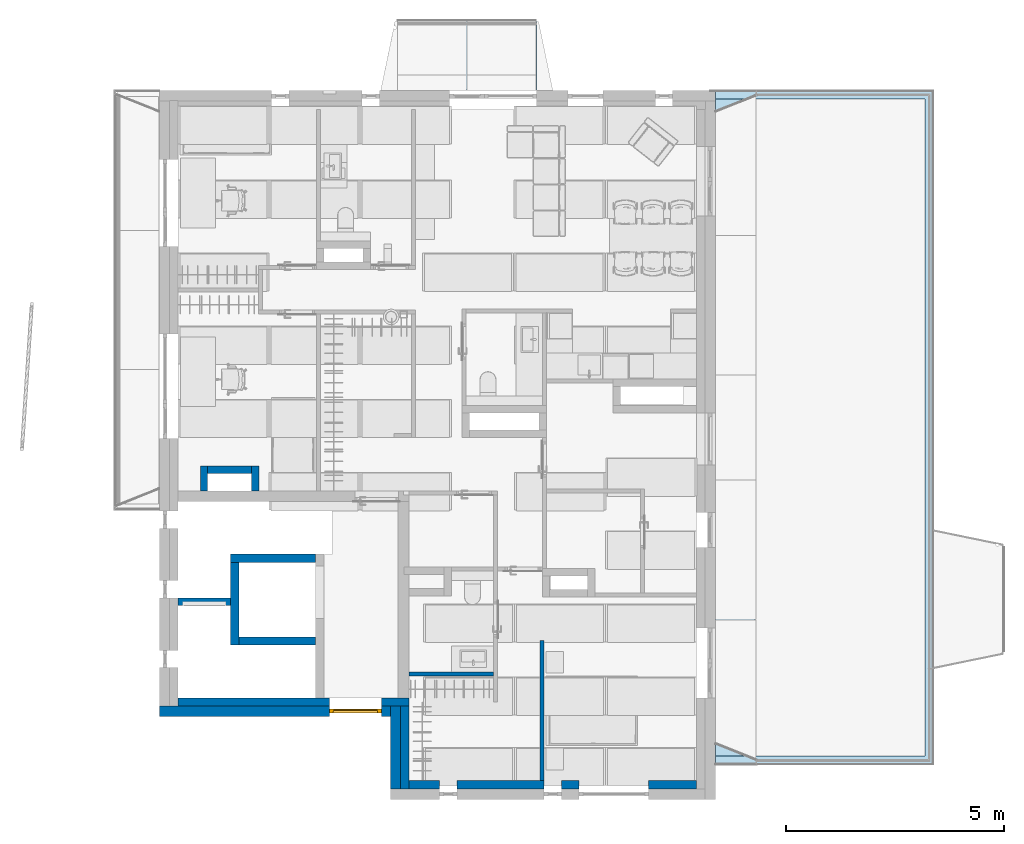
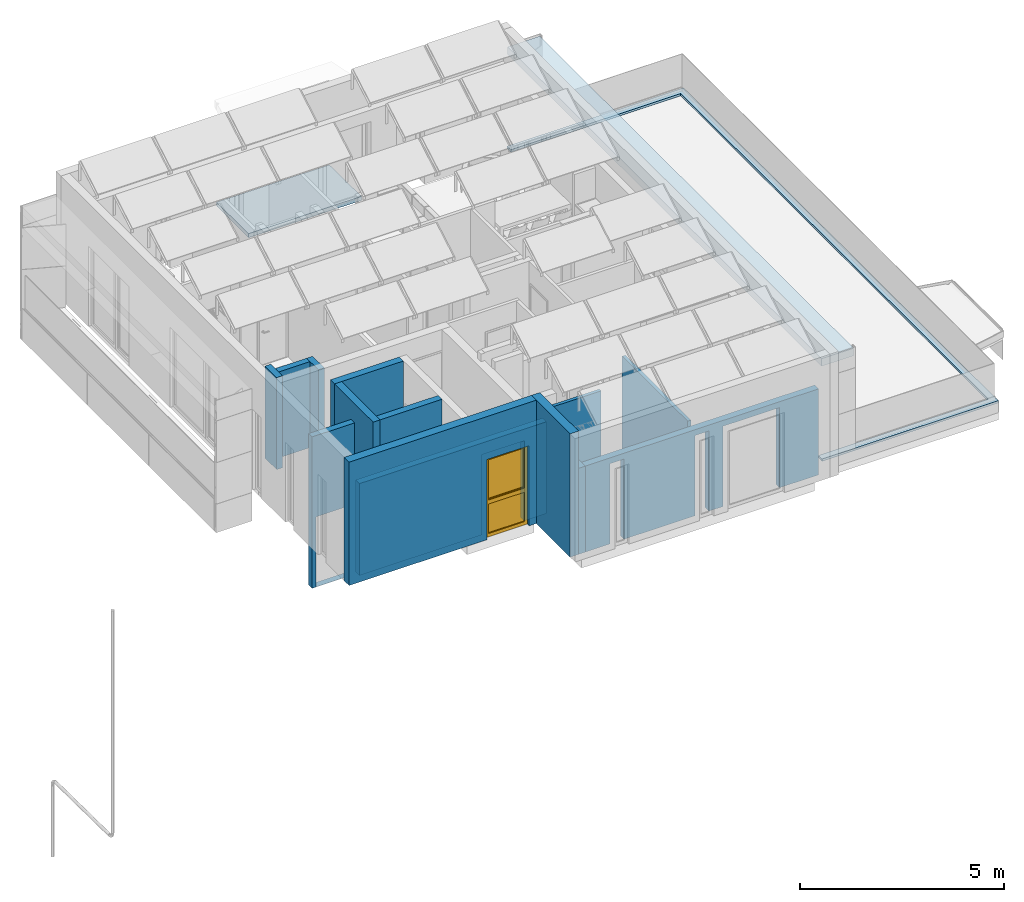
# One storey, part 2 of 57: 14 walls, 3 slabs, 1 window, 6 openings, 2 elements without a shape of their own.
"""IFC2X3 building model written with IfcOpenShell, lengths in millimetres."""

from ifc_helpers import new_model, entity, si_unit, converted_unit, direction, frame, frame_2d, origin, place, context, subcontext, project, spatial, polyline, rectangle, outline, extrude, faceted_brep, source, transform, mapped, material, material_list, layer, layer_set, layer_usage, type_object, type_shapes, element, fill, aggregate, save


model = new_model("IFC2X3")

# Units and contexts
model_context = context("Model", 3, precision=0.01, world=origin(), true_north=direction((6.123233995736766e-17, 1.0)))
plan_context = context("Plan", 3, precision=0.01, world=origin(), true_north=direction((6.123233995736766e-17, 1.0)))
body_context = subcontext(model_context, "Body", "Model", "MODEL_VIEW")
ifc_project = project(units=[si_unit("LENGTHUNIT", "METRE", prefix="MILLI"), converted_unit("PLANEANGLEUNIT", "DEGREE", entity("IfcPlaneAngleMeasure", 0.017453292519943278), si_unit("PLANEANGLEUNIT", "RADIAN"), dimensions=[0, 0, 0, 0, 0, 0, 0]), si_unit("AREAUNIT", "SQUARE_METRE")], contexts=[model_context, plan_context])

# Site, building, storey
site_placement = place(None, origin())
site = spatial("IfcSite", under=ifc_project, at=site_placement, Name="Default", CompositionType="ELEMENT")
building_placement = place(site_placement, origin())
building = spatial("IfcBuilding", under=site, at=building_placement, CompositionType="ELEMENT")
storey_placement = place(building_placement, frame((0.0, 0.0, 12811.000000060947)))
storey = spatial("IfcBuildingStorey", under=building, at=storey_placement, Name="5K", CompositionType="ELEMENT", Elevation=12811.000000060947)

# Roof, slab
ifc_material_1 = material(Name="_K. Katusekate. Rullmaterjal. PVC(1)")
ifc_layer_1 = layer(ifc_material_1, 2.5)
ifc_material_2 = material(Name="_K. Betoon. Armeeritud. Kohtvalu")
ifc_layer_2 = layer(ifc_material_2, 65.0)
ifc_layer_set_1 = layer_set([ifc_layer_1, ifc_layer_2], Name="Basic Roof:KL-02 2")
roof_1_placement = place(storey_placement, frame((12330.0, 380.0, -90.99985510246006)))
roof_1 = element("IfcRoof", 1, at=roof_1_placement, inside=storey, material=ifc_layer_set_1, Name="Basic Roof:KL-02 2", ObjectType="Basic Roof:KL-02 2", ShapeType="NOTDEFINED")
type_product_1 = type_object("IfcTypeProduct", Name="Basic Roof:KL-02 2")
slab_1_placement = place(roof_1_placement, origin())
slab_1 = element("IfcSlab", 2, at=slab_1_placement, type_object=type_product_1, material=ifc_layer_set_1, Name="Basic Roof:KL-02 2", ObjectType="Basic Roof:KL-02 2", PredefinedType="ROOF", context=body_context, shape_type="SweptSolid", body=[
    extrude(outline(polyline([(-2495.0, 7720.0), (-2495.0, 7540.0), (2315.0, 7540.0), (2315.0, -7540.0), (-2495.0, -7540.0), (-2495.0, -7720.0), (2495.0, -7720.0), (2495.0, 7720.0), (-2495.0, 7720.0)])), frame((2495.0, 7720.0, 0.0)), (0.0, 0.0, 1.0), 67.49999999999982),
])
aggregate(roof_1, [slab_1])

# Slab
ifc_material_3 = material(Name="_K. Betoon. Armeeritud. Monteeritav")
slab_type = type_object("IfcSlabType", Name="HR_Slab_Balcony_v3:Default", PredefinedType="FLOOR", material=ifc_material_3)
slab_2_placement = place(storey_placement, frame((0.0, 0.0, -225.50023803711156)))
element("IfcSlab", 3, at=slab_2_placement, inside=storey, type_object=slab_type, Name="HR_Slab_Balcony_v3:Default", ObjectType="HR_Slab_Balcony_v3:Default", PredefinedType="FLOOR", context=body_context, shape_type="SweptSolid", body=[
    extrude(outline(polyline([(-636.2215697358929, 62.610965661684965), (-637.2171002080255, -42.38431479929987), (-604.7185610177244, -42.69245518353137), (-594.6241980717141, -32.787717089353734), (-579.6248722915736, -32.92993572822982), (-569.7201341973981, -43.02429867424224), (944.7117920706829, -57.38364057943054), (945.849541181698, 62.61096566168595), (865.8531370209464, 63.369465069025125), (865.7119652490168, 62.6109656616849), (-636.2215697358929, 62.610965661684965)])), frame((5031.41658844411, 16795.213397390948, 48.424019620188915), z_axis=(-1.0, 0.0, 0.0), x_axis=(0.0, -0.9999550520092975, 0.009481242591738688)), (0.0, 0.0, -1.0), 3194.999999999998),
])

# Roof, slab
ifc_material_4 = material(Name="_K. Katusekate. Rullmaterjal. SBS")
ifc_layer_3 = layer(ifc_material_4, 10.0)
ifc_material_5 = material(Name="_K. Ehitusplaat. Vineer. Veekindel")
ifc_layer_4 = layer(ifc_material_5, 15.0)
ifc_material_6 = material(Name="_K. Õhk. Roov. Fassaadikatte alusroov. Horisontaalne. 25 mm")
ifc_layer_5 = layer(ifc_material_6, 100.0)
ifc_layer_6 = layer(ifc_material_6, 100.0)
ifc_layer_set_2 = layer_set([ifc_layer_3, ifc_layer_4, ifc_layer_5, ifc_layer_6], Name="Basic Roof:KL-06")
roof_2_placement = place(storey_placement, frame((12330.0, 403.00341155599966, 2740.0)))
roof_2 = element("IfcRoof", 4, at=roof_2_placement, inside=storey, material=ifc_layer_set_2, Name="Basic Roof:KL-06", ObjectType="Basic Roof:KL-06", ShapeType="NOTDEFINED")
type_product_2 = type_object("IfcTypeProduct", Name="Basic Roof:KL-06")
slab_3_placement = place(roof_2_placement, origin())
slab_3 = element("IfcSlab", 5, at=slab_3_placement, type_object=type_product_2, material=ifc_layer_set_2, Name="Basic Roof:KL-06", ObjectType="Basic Roof:KL-06", PredefinedType="ROOF", context=body_context, shape_type="SweptSolid", body=[
    extrude(rectangle(XDim=910.0651989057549, YDim=15393.994992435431, at=frame_2d((1.0800249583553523e-12, -9.094947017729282e-13), x_axis=(-1.0, 0.0))), frame((455.03259945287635, 7696.997496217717, 0.0)), (0.0, 0.0, 1.0), 225.00000000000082),
])
aggregate(roof_2, [slab_3])

# Walls
ifc_material_7 = material(Name="_K. Väisviimistlus. Krohv. Valge")
ifc_layer_7 = layer(ifc_material_7, 5.0)
ifc_material_8 = material(Name="_K. Müüritis. Väikeplokk. Betoon-õõnesplokk")
ifc_layer_8 = layer(ifc_material_8, 190.00000000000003)
ifc_layer_9 = layer(ifc_material_7, 5.0)
ifc_layer_set_3 = layer_set([ifc_layer_7, ifc_layer_8, ifc_layer_9], Name="Basic Wall:SS-01. 190")
ifc_layer_usage_1 = layer_usage(ifc_layer_set_3, "AXIS2", "NEGATIVE", 100.00000000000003)
wall_type_1 = type_object("IfcWallType", Name="Basic Wall:SS-01. 190", PredefinedType="STANDARD", material=ifc_layer_set_3)
wall_1_placement = place(storey_placement, frame((1199.993534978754, 5099.998433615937, 0.0)))
element("IfcWallStandardCase", 6, at=wall_1_placement, inside=storey, type_object=wall_type_1, material=ifc_layer_usage_1, Name="Basic Wall:SS-01. 190", ObjectType="Basic Wall:SS-01. 190", context=body_context, shape_type="SweptSolid", body=[
    extrude(rectangle(XDim=1949.9999999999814, YDim=200.0, at=frame_2d((974.9999999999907, 0.0), x_axis=(-1.0, 0.0))), origin(), (0.0, 0.0, 1.0), 3323.9999999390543),
])
ifc_layer_usage_2 = layer_usage(ifc_layer_set_3, "AXIS2", "NEGATIVE", 100.00000000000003)
wall_2_placement = place(storey_placement, frame((1299.993534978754, 3109.993855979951, 0.0), z_axis=(0.0, 0.0, 1.0), x_axis=(0.0, 1.0, 0.0)))
element("IfcWallStandardCase", 7, at=wall_2_placement, inside=storey, type_object=wall_type_1, material=ifc_layer_usage_2, Name="Basic Wall:SS-01. 190", ObjectType="Basic Wall:SS-01. 190", context=body_context, shape_type="SweptSolid", body=[
    extrude(rectangle(XDim=1890.0045776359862, YDim=200.0, at=frame_2d((945.0022888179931, 0.0), x_axis=(-1.0, 0.0))), origin(), (0.0, 0.0, 1.0), 3323.999954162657),
])
ifc_layer_10 = layer(ifc_material_8, 190.00000000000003)
ifc_layer_set_4 = layer_set([ifc_layer_10], Name="Basic Wall:Columbia 190mm")
ifc_layer_usage_3 = layer_usage(ifc_layer_set_4, "AXIS2", "NEGATIVE", 95.00000000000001)
wall_type_2 = type_object("IfcWallType", Name="Basic Wall:Columbia 190mm", PredefinedType="STANDARD", material=ifc_layer_set_4)
wall_3_placement = place(storey_placement, frame((3149.9935349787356, 3204.993855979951, 0.0), z_axis=(0.0, 0.0, 1.0), x_axis=(-1.0, 0.0, 0.0)))
element("IfcWallStandardCase", 8, at=wall_3_placement, inside=storey, type_object=wall_type_2, material=ifc_layer_usage_3, Name="Basic Wall:Columbia 190mm", ObjectType="Basic Wall:Columbia 190mm", context=body_context, shape_type="SweptSolid", body=[
    extrude(rectangle(XDim=1749.9999999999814, YDim=190.0000000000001, at=frame_2d((874.9999999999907, 0.0), x_axis=(-1.0, 0.0))), origin(), (0.0, 0.0, 1.0), 3323.9999999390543),
])

# Wall, openings
ifc_layer_usage_4 = layer_usage(ifc_layer_set_4, "AXIS2", "NEGATIVE", 95.00000000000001)
wall_4_placement = place(storey_placement, frame((11900.0, -95.0, 0.0), z_axis=(0.0, 0.0, 1.0), x_axis=(-1.0, 0.0, 0.0)))
wall_4 = element("IfcWallStandardCase", 9, at=wall_4_placement, inside=storey, type_object=wall_type_2, material=ifc_layer_usage_4, Name="Basic Wall:Columbia 190mm", ObjectType="Basic Wall:Columbia 190mm", context=body_context, shape_type="SweptSolid", body=[
    extrude(rectangle(XDim=6600.000000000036, YDim=190.00000000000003, at=frame_2d((3300.000000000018, 0.0), x_axis=(-1.0, 0.0))), origin(), (0.0, 0.0, 1.0), 2573.9999999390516),
])
opening_1_placement = place(wall_4_placement, frame((11900.0, -95.0, 0.0)))
element("IfcOpeningElement", 10, at=opening_1_placement, cuts=wall_4, Name="Basic Wall:Columbia 190mm", ObjectType="Opening", context=body_context, shape_type="Brep", body=[
    faceted_brep([(-6000.0, 450.0, 2400.0), (-6000.0, -244.0, 2400.0), (-6000.0, -244.0, 0.0), (-6000.0, 340.0, 0.0), (-6000.0, 350.0, 0.0), (-6000.0, 450.0, 0.0), (-6400.0, 450.0, 2400.0), (-6400.0, -244.0, 2400.0), (-6400.0, 450.0, 0.0), (-6400.0, 350.0, 0.0), (-6400.0, 340.0, 0.0), (-6400.0, -244.0, 0.0)], [[[0, 1, 2, 3, 4, 5]], [[6, 7, 1, 0]], [[8, 9, 10, 11, 7, 6]], [[5, 4, 3, 2, 11, 10, 9, 8]], [[6, 0, 5, 8]], [[7, 11, 2, 1]]]),
])
opening_2_placement = place(wall_4_placement, frame((11900.0, -95.0, 0.0)))
element("IfcOpeningElement", 11, at=opening_2_placement, cuts=wall_4, Name="Basic Wall:Columbia 190mm", ObjectType="Opening", context=body_context, shape_type="Brep", body=[
    faceted_brep([(-8400.0, 450.0, 2400.0), (-8400.0, -244.0, 2400.0), (-8400.0, -244.0, 0.0), (-8400.0, 340.0, 0.0), (-8400.0, 350.0, 0.0), (-8400.0, 450.0, 0.0), (-8800.0, 450.0, 2400.0), (-8800.0, -244.0, 2400.0), (-8800.0, 450.0, 0.0), (-8800.0, 350.0, 0.0), (-8800.0, 340.0, 0.0), (-8800.0, -244.0, 0.0)], [[[0, 1, 2, 3, 4, 5]], [[6, 7, 1, 0]], [[8, 9, 10, 11, 7, 6]], [[5, 4, 3, 2, 11, 10, 9, 8]], [[6, 0, 5, 8]], [[7, 11, 2, 1]]]),
])
opening_3_placement = place(wall_4_placement, frame((11900.0, -95.0, 0.0)))
element("IfcOpeningElement", 12, at=opening_3_placement, cuts=wall_4, Name="Basic Wall:Columbia 190mm", ObjectType="Opening", context=body_context, shape_type="Brep", body=[
    faceted_brep([(-9200.0, 450.0, 2400.0), (-9200.0, -244.0, 2400.0), (-9200.0, -244.0, 0.0), (-9200.0, 340.0, 0.0), (-9200.0, 350.0, 0.0), (-9200.0, 450.0, 0.0), (-10800.0, 450.0, 2400.0), (-10800.0, -244.0, 2400.0), (-10800.0, 450.0, 0.0), (-10800.0, 350.0, 0.0), (-10800.0, 340.0, 0.0), (-10800.0, -244.0, 0.0)], [[[0, 1, 2, 3, 4, 5]], [[6, 7, 1, 0]], [[8, 9, 10, 11, 7, 6]], [[5, 4, 3, 2, 11, 10, 9, 8]], [[6, 0, 5, 8]], [[7, 11, 2, 1]]]),
])

# Wall, opening
ifc_layer_usage_5 = layer_usage(ifc_layer_set_4, "AXIS2", "NEGATIVE", 95.00000000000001)
wall_5_placement = place(storey_placement, frame((5300.0, 1805.0, 0.0), z_axis=(0.0, 0.0, 1.0), x_axis=(-1.0, 0.0, 0.0)))
wall_5 = element("IfcWallStandardCase", 13, at=wall_5_placement, inside=storey, type_object=wall_type_2, material=ifc_layer_usage_5, Name="Basic Wall:Columbia 190mm", ObjectType="Basic Wall:Columbia 190mm", context=body_context, shape_type="SweptSolid", body=[
    extrude(rectangle(XDim=5300.0, YDim=190.0000000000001, at=frame_2d((2650.0, 0.0), x_axis=(-1.0, 0.0))), origin(), (0.0, 0.0, 1.0), 2749.998712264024),
])
opening_4_placement = place(wall_5_placement, frame((5300.0, 1805.0, 0.0)))
element("IfcOpeningElement", 14, at=opening_4_placement, cuts=wall_5, Name="Basic Wall:Columbia 190mm", ObjectType="Opening", context=body_context, shape_type="Brep", body=[
    faceted_brep([(-3470.0, -1450.0, 2400.0), (-3470.0, -2144.0, 2400.0), (-3470.0, -2144.0, 0.0), (-3470.0, -1560.0, 0.0), (-3470.0, -1550.0, 0.0), (-3470.0, -1450.0, 0.0), (-4670.0, -1450.0, 2400.0), (-4670.0, -2144.0, 2400.0), (-4670.0, -1450.0, 0.0), (-4670.0, -1550.0, 0.0), (-4670.0, -1560.0, 0.0), (-4670.0, -2144.0, 0.0)], [[[0, 1, 2, 3, 4, 5]], [[6, 7, 1, 0]], [[8, 9, 10, 11, 7, 6]], [[5, 4, 3, 2, 11, 10, 9, 8]], [[6, 0, 5, 8]], [[7, 11, 2, 1]]]),
])

# Walls
ifc_layer_usage_6 = layer_usage(ifc_layer_set_4, "AXIS2", "NEGATIVE", 95.00000000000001)
wall_6_placement = place(storey_placement, frame((5205.0, -190.0, 0.0), z_axis=(0.0, 0.0, 1.0), x_axis=(0.0, 1.0, 0.0)))
element("IfcWallStandardCase", 15, at=wall_6_placement, inside=storey, type_object=wall_type_2, material=ifc_layer_usage_6, Name="Basic Wall:Columbia 190mm", ObjectType="Basic Wall:Columbia 190mm", context=body_context, shape_type="SweptSolid", body=[
    extrude(rectangle(XDim=1899.9999999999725, YDim=190.0000000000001, at=frame_2d((949.9999999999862, -1.4210854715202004e-14), x_axis=(-1.0, 0.0))), origin(), (0.0, 0.0, 1.0), 2573.9999999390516),
])
ifc_layer_11 = layer(ifc_material_7, 10.0)
ifc_material_9 = material(Name="_K. Soojustus. EPS Silver")
ifc_layer_12 = layer(ifc_material_9, 230.0)
ifc_layer_set_5 = layer_set([ifc_layer_11, ifc_layer_12], Name="Basic Wall:VS-01")
ifc_layer_usage_7 = layer_usage(ifc_layer_set_5, "AXIS2", "NEGATIVE", 120.0)
wall_type_3 = type_object("IfcWallType", Name="Basic Wall:VS-01", PredefinedType="STANDARD", material=ifc_layer_set_5)
wall_7_placement = place(storey_placement, frame((4990.0, -190.0, 0.0), z_axis=(0.0, 0.0, 1.0), x_axis=(0.0, 1.0, 0.0)))
element("IfcWallStandardCase", 16, at=wall_7_placement, inside=storey, type_object=wall_type_3, material=ifc_layer_usage_7, Name="Basic Wall:VS-01", ObjectType="Basic Wall:VS-01", context=body_context, shape_type="SweptSolid", body=[
    extrude(rectangle(XDim=1899.999999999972, YDim=239.99999999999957, at=frame_2d((949.999999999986, 8.526512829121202e-14), x_axis=(-1.0, 0.0))), origin(), (0.0, 0.0, 1.0), 3688.9999999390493),
])

# Wall, opening, window
ifc_layer_usage_8 = layer_usage(ifc_layer_set_5, "AXIS2", "NEGATIVE", 120.0)
wall_8_placement = place(storey_placement, frame((4870.0, 1590.0, 0.0), z_axis=(0.0, 0.0, 1.0), x_axis=(-1.0, 0.0, 0.0)))
wall_8 = element("IfcWallStandardCase", 17, at=wall_8_placement, inside=storey, type_object=wall_type_3, material=ifc_layer_usage_8, Name="Basic Wall:VS-01", ObjectType="Basic Wall:VS-01", context=body_context, shape_type="SweptSolid", body=[
    extrude(rectangle(XDim=5300.000000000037, YDim=240.0000000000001, at=frame_2d((2650.0000000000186, -6.394884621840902e-14), x_axis=(-1.0, 0.0))), origin(), (0.0, 0.0, 1.0), 3688.9999999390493),
])
opening_5_placement = place(wall_8_placement, frame((4870.0, 1590.0, 0.0), z_axis=(0.0, 0.0, 1.0), x_axis=(-1.0, 0.0, 0.0)))
opening_5 = element("IfcOpeningElement", 18, at=opening_5_placement, cuts=wall_8, Name="Basic Wall:VS-01", ObjectType="Opening", context=body_context, shape_type="Brep", body=[
    faceted_brep([(3470.0, 1450.0, 2400.0), (3470.0, 2144.0, 2400.0), (3470.0, 2144.0, 0.0), (3470.0, 1560.0, 0.0), (3470.0, 1550.0, 0.0), (3470.0, 1450.0, 0.0), (4670.0, 1450.0, 2400.0), (4670.0, 2144.0, 2400.0), (4670.0, 1450.0, 0.0), (4670.0, 1550.0, 0.0), (4670.0, 1560.0, 0.0), (4670.0, 2144.0, 0.0)], [[[0, 1, 2, 3, 4, 5]], [[6, 7, 1, 0]], [[8, 9, 10, 11, 7, 6]], [[5, 4, 3, 2, 11, 10, 9, 8]], [[6, 0, 5, 8]], [[7, 11, 2, 1]]]),
])
ifc_material_10 = material(Name="_K. Klaas. Pakett")
ifc_material_11 = material(Name="_K. Avatäited. Raam. PVC. RAL9005")
ifc_material_12 = material(Name="_K. Avatäited. Raam. PVC. Valge")
ifc_material_list = material_list([ifc_material_10, ifc_material_11, ifc_material_12])
window_style = type_object("IfcWindowStyle", Name="HR_Window_Generic_Rectangle_1x2:A-13.1200x2400.P", ConstructionType="NOTDEFINED", OperationType="NOTDEFINED", ParameterTakesPrecedence=False, Sizeable=False, material=ifc_material_list)
shared_shape = source(origin(), body_context, "Body", "Brep", [
    faceted_brep([(78.0, -154.0, 2322.0), (1122.0, -154.0, 2322.0), (1122.0, -154.0, 1101.0), (78.0, -154.0, 1101.0), (1122.0, -179.0, 2322.0), (1122.0, -179.0, 1101.0), (78.0, -179.0, 1101.0), (78.0, -179.0, 2322.0)], [[[0, 1, 2, 3]], [[2, 1, 4, 5]], [[3, 2, 5, 6]], [[0, 3, 6, 7]], [[7, 6, 5, 4]], [[1, 0, 7, 4]]]),
    faceted_brep([(1122.0, -154.0, 2322.0), (1122.0, -154.0, 1101.0), (1122.0, -179.0, 1101.0), (1122.0, -179.0, 2322.0), (1142.0, -134.0, 2342.0), (58.0, -134.0, 2342.0), (58.0, -194.0, 2342.0), (1142.0, -194.0, 2342.0), (98.0, -154.0, 2302.0), (98.0, -134.0, 2302.0), (1102.0, -134.0, 2302.0), (1102.0, -154.0, 2302.0), (98.0, -179.0, 2302.0), (98.0, -194.0, 2302.0), (98.0, -194.0, 1121.0), (98.0, -179.0, 1121.0), (1142.0, -134.0, 1081.0), (1142.0, -194.0, 1081.0), (58.0, -194.0, 1081.0), (58.0, -134.0, 1081.0), (1102.0, -194.0, 2302.0), (1102.0, -194.0, 1121.0), (98.0, -134.0, 1121.0), (1102.0, -134.0, 1121.0), (98.0, -154.0, 1121.0), (1102.0, -154.0, 1121.0), (78.0, -154.0, 1101.0), (78.0, -179.0, 1101.0), (78.0, -154.0, 2322.0), (78.0, -179.0, 2322.0), (1102.0, -179.0, 2302.0), (1102.0, -179.0, 1121.0)], [[[0, 1, 2, 3]], [[4, 5, 6, 7]], [[8, 9, 10, 11]], [[12, 13, 14, 15]], [[16, 17, 18, 19]], [[4, 7, 17, 16]], [[13, 20, 21, 14], [7, 6, 18, 17]], [[6, 5, 19, 18]], [[5, 4, 16, 19], [10, 9, 22, 23]], [[9, 8, 24, 22]], [[25, 23, 22, 24]], [[11, 10, 23, 25]], [[1, 26, 27, 2]], [[26, 28, 29, 27]], [[28, 26, 1, 0], [8, 11, 25, 24]], [[28, 0, 3, 29]], [[20, 30, 31, 21]], [[21, 31, 15, 14]], [[29, 3, 2, 27], [30, 12, 15, 31]], [[13, 12, 30, 20]]], outer=[[True], [True], [True], [True], [True], [True], [False, True], [True], [True, False], [True], [True], [True], [True], [True], [True, False], [True], [True], [True], [True, False], [True]]),
    faceted_brep([(88.0, -194.0, 989.0), (1112.0, -194.0, 989.0), (1112.0, -194.0, 108.0), (88.0, -194.0, 108.0), (1142.0, -194.0, 1019.0), (58.0, -194.0, 1019.0), (58.0, -194.0, 78.0), (1142.0, -194.0, 78.0), (88.0, -159.0, 989.0), (88.0, -159.0, 108.0), (1112.0, -159.0, 108.0), (1142.0, -159.0, 1019.0), (1142.0, -159.0, 78.0), (58.0, -159.0, 78.0), (58.0, -159.0, 1019.0), (1112.0, -159.0, 989.0)], [[[0, 1, 2, 3], [4, 5, 6, 7]], [[8, 0, 3, 9]], [[9, 3, 2, 10]], [[11, 12, 13, 14], [15, 8, 9, 10]], [[1, 15, 10, 2]], [[6, 5, 14, 13]], [[7, 6, 13, 12]], [[4, 7, 12, 11]], [[15, 1, 0, 8]], [[5, 4, 11, 14]]], outer=[[False, True], [True], [True], [True, False], [True], [True], [True], [True], [True], [True]]),
    faceted_brep([(1142.0, -159.0, 1019.0), (58.0, -159.0, 1019.0), (58.0, -159.0, 78.0), (1142.0, -159.0, 78.0), (58.0, -134.0, 1019.0), (58.0, -134.0, 78.0), (1142.0, -134.0, 78.0), (1142.0, -134.0, 1019.0)], [[[0, 1, 2, 3]], [[2, 1, 4, 5]], [[3, 2, 5, 6]], [[0, 3, 6, 7]], [[7, 6, 5, 4]], [[1, 0, 7, 4]]]),
    faceted_brep([(58.0, -134.0, 2342.0), (58.0, -134.0, 1081.0), (1142.0, -134.0, 1081.0), (1142.0, -134.0, 2342.0), (88.0, -134.0, 2312.0), (1112.0, -134.0, 2312.0), (1112.0, -134.0, 1111.0), (88.0, -134.0, 1111.0), (1142.0, -134.0, 1019.0), (1142.0, -134.0, 78.0), (1142.0, -194.0, 78.0), (1142.0, -194.0, 1019.0), (58.0, -134.0, 78.0), (58.0, -134.0, 1019.0), (58.0, -194.0, 1019.0), (58.0, -194.0, 78.0), (1112.0, -100.0, 108.0), (88.0, -100.0, 108.0), (88.0, -134.0, 108.0), (1112.0, -134.0, 108.0), (88.0, -100.0, 989.0), (88.0, -134.0, 989.0), (1112.0, -100.0, 989.0), (1112.0, -134.0, 989.0), (1200.0, -194.0, 2400.0), (0.0, -194.0, 2400.0), (0.0, -194.0, 30.0), (1200.0, -194.0, 30.0), (58.0, -194.0, 2342.0), (1142.0, -194.0, 2342.0), (1142.0, -194.0, 1081.0), (58.0, -194.0, 1081.0), (0.0, -100.0, 2400.0), (0.0, -100.0, 30.0), (0.0, -110.0, 30.0), (0.0, -110.0, 0.0), (0.0, -184.0, 0.0), (0.0, -184.0, 30.0), (1200.0, -184.0, 30.0), (1200.0, -100.0, 2400.0), (1200.0, -184.0, 0.0), (1200.0, -110.0, 0.0), (1200.0, -110.0, 30.0), (1200.0, -100.0, 30.0), (88.0, -100.0, 2312.0), (88.0, -100.0, 1111.0), (1112.0, -100.0, 1111.0), (1112.0, -100.0, 2312.0)], [[[0, 1, 2, 3], [4, 5, 6, 7]], [[8, 9, 10, 11]], [[12, 13, 14, 15]], [[9, 12, 15, 10]], [[16, 17, 18, 19]], [[17, 20, 21, 18]], [[22, 16, 19, 23]], [[11, 10, 15, 14], [24, 25, 26, 27], [28, 29, 30, 31]], [[25, 32, 33, 34, 35, 36, 37, 26]], [[37, 38, 27, 26]], [[39, 24, 27, 38, 40, 41, 42, 43]], [[17, 16, 22, 20], [32, 39, 43, 33], [44, 45, 46, 47]], [[42, 34, 33, 43]], [[34, 42, 41, 35]], [[35, 41, 40, 36]], [[38, 37, 36, 40]], [[25, 24, 39, 32]], [[44, 47, 5, 4]], [[47, 46, 6, 5]], [[45, 44, 4, 7]], [[0, 3, 29, 28]], [[3, 2, 30, 29]], [[13, 8, 11, 14]], [[1, 0, 28, 31]], [[2, 1, 31, 30]], [[46, 45, 7, 6]], [[20, 22, 23, 21]], [[9, 8, 13, 12], [19, 18, 21, 23]]], outer=[[True, False], [True], [True], [True], [True], [True], [True], [False, True, False], [True], [True], [True], [False, True, False], [True], [True], [True], [True], [True], [True], [True], [True], [True], [True], [True], [True], [True], [True], [True], [True, False]]),
])
type_shapes(window_style, [shared_shape])
window_placement = place(opening_5_placement, frame((4670.0, 1450.0, 0.0), z_axis=(0.0, 0.0, 1.0), x_axis=(-1.0, 0.0, 0.0)))
window = element("IfcWindow", 19, at=window_placement, inside=storey, type_object=window_style, material=ifc_material_list, Name="HR_Window_Generic_Rectangle_1x2:A-13.1200x2400.P", ObjectType="HR_Window_Generic_Rectangle_1x2:A-13.1200x2400.P", OverallHeight=2465.0000000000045, OverallWidth=1200.0000000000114, context=body_context, shape_type="MappedRepresentation", body=[
    mapped(shared_shape, transform((0.0, 0.0, 0.0), scale=1.0)),
])
fill(opening_5, window)

# Walls
ifc_material_13 = material(Name="_K. Ehitusplaat. Kipsplaat. Erikõva")
ifc_layer_13 = layer(ifc_material_13, 13.000000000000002)
ifc_material_14 = material(Name="_K. Soojustus. Mineraalvill")
ifc_layer_14 = layer(ifc_material_14, 66.0)
ifc_layer_15 = layer(ifc_material_13, 13.000000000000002)
ifc_layer_set_6 = layer_set([ifc_layer_13, ifc_layer_14, ifc_layer_15], Name="Basic Wall:SS-401")
ifc_layer_usage_9 = layer_usage(ifc_layer_set_6, "AXIS2", "NEGATIVE", 46.00000000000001)
wall_type_4 = type_object("IfcWallType", Name="Basic Wall:SS-401", PredefinedType="STANDARD", material=ifc_layer_set_6)
wall_9_placement = place(storey_placement, frame((5299.995060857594, 2446.0, -20.0)))
element("IfcWallStandardCase", 20, at=wall_9_placement, inside=storey, type_object=wall_type_4, material=ifc_layer_usage_9, Name="Basic Wall:SS-401", ObjectType="Basic Wall:SS-401", context=body_context, shape_type="SweptSolid", body=[
    extrude(rectangle(XDim=1940.0049391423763, YDim=92.0000000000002, at=frame_2d((970.0024695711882, -3.907985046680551e-14), x_axis=(-1.0, 0.0))), origin(), (0.0, 0.0, 1.0), 2593.9999999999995),
])
ifc_layer_usage_10 = layer_usage(ifc_layer_set_6, "AXIS2", "NEGATIVE", 46.00000000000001)
wall_10_placement = place(storey_placement, frame((8354.0, 0.0, -20.0), z_axis=(0.0, 0.0, 1.0), x_axis=(0.0, 1.0, 0.0)))
element("IfcWallStandardCase", 21, at=wall_10_placement, inside=storey, type_object=wall_type_4, material=ifc_layer_usage_10, Name="Basic Wall:SS-401", ObjectType="Basic Wall:SS-401", context=body_context, shape_type="SweptSolid", body=[
    extrude(rectangle(XDim=3209.999999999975, YDim=92.00000000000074, at=frame_2d((1604.9999999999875, -2.842170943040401e-14), x_axis=(-1.0, 0.0))), origin(), (0.0, 0.0, 1.0), 2769.998712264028),
])
ifc_layer_16 = layer(ifc_material_7, 10.0)
ifc_material_15 = material(Name="_K. Müüritis. Väikeplokk. Kergkruusplokk")
ifc_layer_17 = layer(ifc_material_15, 150.0)
ifc_layer_18 = layer(ifc_material_7, 10.0)
ifc_layer_set_7 = layer_set([ifc_layer_16, ifc_layer_17, ifc_layer_18], Name="Basic Wall:SS-03. Šahti sein")
ifc_layer_usage_11 = layer_usage(ifc_layer_set_7, "AXIS2", "NEGATIVE", 85.00000000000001)
wall_type_5 = type_object("IfcWallType", Name="Basic Wall:SS-03. Šahti sein", PredefinedType="STANDARD", material=ifc_layer_set_7)
wall_11_placement = place(storey_placement, frame((680.0, 7135.0, 0.0)))
element("IfcWallStandardCase", 22, at=wall_11_placement, inside=storey, type_object=wall_type_5, material=ifc_layer_usage_11, Name="Basic Wall:SS-03. Šahti sein", ObjectType="Basic Wall:SS-03. Šahti sein", context=body_context, shape_type="SweptSolid", body=[
    extrude(rectangle(XDim=1010.0000000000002, YDim=170.00000000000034, at=frame_2d((505.0000000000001, 0.0), x_axis=(-1.0, 0.0))), origin(), (0.0, 0.0, 1.0), 2573.9999237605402),
])
ifc_layer_usage_12 = layer_usage(ifc_layer_set_7, "AXIS2", "NEGATIVE", 85.00000000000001)
wall_12_placement = place(storey_placement, frame((1775.0, 7220.0, 0.0), z_axis=(0.0, 0.0, 1.0), x_axis=(0.0, -1.0, 0.0)))
element("IfcWallStandardCase", 23, at=wall_12_placement, inside=storey, type_object=wall_type_5, material=ifc_layer_usage_12, Name="Basic Wall:SS-03. Šahti sein", ObjectType="Basic Wall:SS-03. Šahti sein", context=body_context, shape_type="SweptSolid", body=[
    extrude(rectangle(XDim=575.0000405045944, YDim=169.99999999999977, at=frame_2d((287.5000202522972, 1.1368683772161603e-13), x_axis=(-1.0, 0.0))), origin(), (0.0, 0.0, 1.0), 2573.9999237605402),
])
ifc_layer_usage_13 = layer_usage(ifc_layer_set_7, "AXIS2", "POSITIVE", -85.00000000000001)
wall_13_placement = place(storey_placement, frame((595.0, 7220.0, 0.0), z_axis=(0.0, 0.0, 1.0), x_axis=(0.0, -1.0, 0.0)))
element("IfcWallStandardCase", 24, at=wall_13_placement, inside=storey, type_object=wall_type_5, material=ifc_layer_usage_13, Name="Basic Wall:SS-03. Šahti sein", ObjectType="Basic Wall:SS-03. Šahti sein", context=body_context, shape_type="SweptSolid", body=[
    extrude(rectangle(XDim=575.0000405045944, YDim=170.0, at=frame_2d((287.5000202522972, -2.1316282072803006e-14), x_axis=(-1.0, 0.0))), origin(), (0.0, 0.0, 1.0), 2749.998712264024),
])

# Wall, opening
ifc_layer_usage_14 = layer_usage(ifc_layer_set_7, "AXIS2", "NEGATIVE", 85.00000000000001)
wall_14_placement = place(storey_placement, frame((0.0, 4105.0, -1780.9999618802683)))
wall_14 = element("IfcWallStandardCase", 25, at=wall_14_placement, inside=storey, type_object=wall_type_5, material=ifc_layer_usage_14, Name="Basic Wall:SS-03. Šahti sein", ObjectType="Basic Wall:SS-03. Šahti sein", context=body_context, shape_type="SweptSolid", body=[
    extrude(rectangle(XDim=1199.9935349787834, YDim=170.00000000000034, at=frame_2d((599.9967674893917, 3.552713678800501e-14), x_axis=(-1.0, 0.0))), origin(), (0.0, 0.0, 1.0), 4530.998674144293),
])
opening_6_placement = place(wall_14_placement, frame((0.0, -4105.0, 0.9999618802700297)))
element("IfcOpeningElement", 26, at=opening_6_placement, cuts=wall_14, Name="Basic Wall:SS-03. Šahti sein", ObjectType="Opening", context=body_context, shape_type="Brep", body=[
    faceted_brep([(104.99676748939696, 5112.0, 2100.0), (1104.9967674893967, 5112.0, 2100.0), (1104.9967674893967, 5112.0, 0.0), (104.99676748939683, 5112.0, 0.0), (104.99676748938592, 3020.0, 0.0), (104.99676748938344, 3020.0, 2100.0), (1104.996767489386, 3020.0, 0.0), (1104.996767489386, 3020.0, 2100.0)], [[[0, 1, 2, 3]], [[3, 4, 5, 0]], [[2, 6, 4, 3]], [[1, 7, 6, 2]], [[5, 7, 1, 0]], [[7, 5, 4, 6]]]),
])

save(model, "model.ifc")
